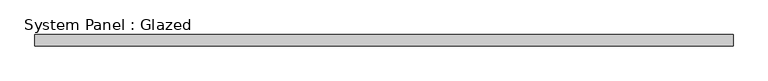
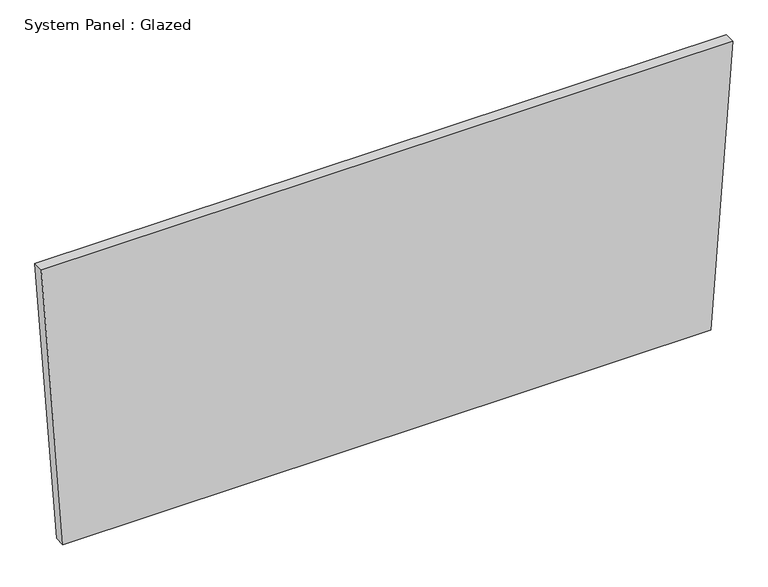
"""IFC4 building model written with IfcOpenShell, lengths in millimetres: plate geometry, System Panel : Glazed."""

from ifc_helpers import new_model, si_unit, frame, origin, place, context, project, spatial, polyline, outline, extrude, source, transform, mapped, element, save


def system_panel_glazed_85c3ad32(model_context):
    return source(origin(), model_context, "Body", "SweptSolid", [
        extrude(outline(polyline([(0.0, -742.5096436), (0.0006417, 742.5096405), (682.4705856, 792.0772219), (682.469901, -792.0772219), (0.0, -742.5096436)])), frame((0.0, 19.05, 0.0), z_axis=(0.0, 1.0, 0.0), x_axis=(0.0, 0.0, 1.0)), (0.0, 0.0, 1.0), 25.4),
    ])


if __name__ == "__main__":
    model = new_model("IFC4")
    model_context = context("Model", 3, world=origin())
    ifc_project = project(units=[si_unit("LENGTHUNIT", "METRE", prefix="MILLI")], contexts=[model_context])
    site = spatial("IfcSite", under=ifc_project)
    building = spatial("IfcBuilding", under=site)
    placement = place(None, origin())
    system_panel_glazed_shape = system_panel_glazed_85c3ad32(model_context)
    element("IfcPlate", 1, ObjectType="System Panel : Glazed", at=placement, inside=building, context=model_context, shape_type="MappedRepresentation", body=[
        mapped(system_panel_glazed_shape, transform((0.0, 0.0, 0.0), x_axis=(1.0, 0.0, 0.0), y_axis=(0.0, 1.0, 0.0), z_axis=(0.0, 0.0, 1.0))),
    ])
    save(model, "model.ifc")
